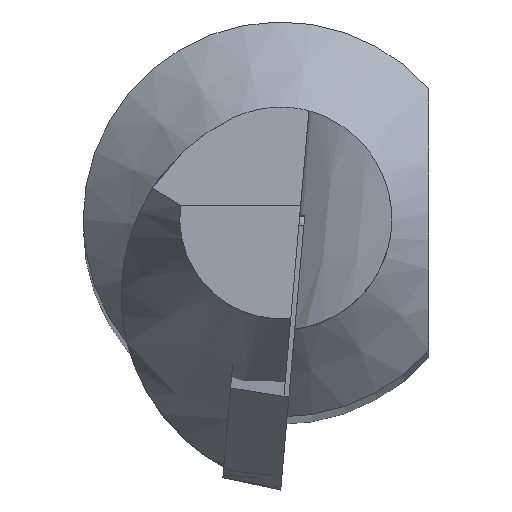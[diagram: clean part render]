
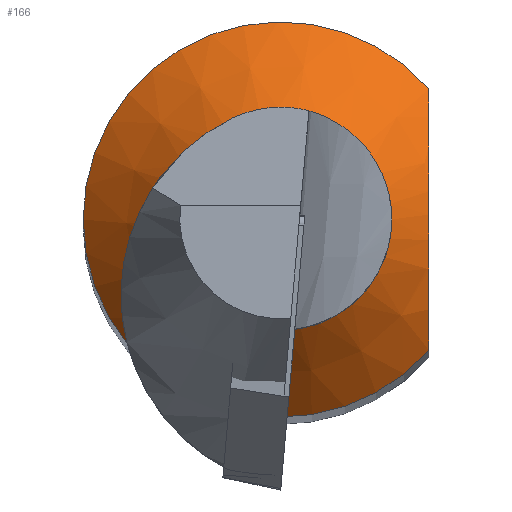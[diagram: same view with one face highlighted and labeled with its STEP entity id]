
A CAD part, top view. The second image highlights one B-rep face of the part: STEP entity #166.
In plain terms, the highlighted conical face has half-angle 45 degrees and reference radius 8 mm.
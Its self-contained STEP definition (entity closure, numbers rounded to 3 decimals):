
#106=B_SPLINE_CURVE_WITH_KNOTS('',3,(#728,#729,#730,#731,#732,#733,#734,
#735),.UNSPECIFIED.,.F.,.F.,(4,2,2,4),(0.,0.5,0.75,1.),.UNSPECIFIED.);
#126=FACE_BOUND('',#227,.T.);
#127=FACE_BOUND('',#228,.T.);
#134=CONICAL_SURFACE('',#490,8.,45.);
#146=CIRCLE('',#487,4.5);
#147=CIRCLE('',#489,8.);
#166=ADVANCED_FACE('',(#126,#127),#134,.T.);
#227=EDGE_LOOP('',(#303));
#228=EDGE_LOOP('',(#304,#305));
#303=ORIENTED_EDGE('',*,*,#405,.F.);
#304=ORIENTED_EDGE('',*,*,#406,.T.);
#305=ORIENTED_EDGE('',*,*,#407,.T.);
#361=VERTEX_POINT('',#723);
#362=VERTEX_POINT('',#726);
#363=VERTEX_POINT('',#727);
#405=EDGE_CURVE('',#361,#361,#146,.T.);
#406=EDGE_CURVE('',#362,#363,#147,.T.);
#407=EDGE_CURVE('',#363,#362,#106,.T.);
#487=AXIS2_PLACEMENT_3D('',#722,#575,#576);
#489=AXIS2_PLACEMENT_3D('',#725,#579,#580);
#490=AXIS2_PLACEMENT_3D('',#736,#581,#582);
#575=DIRECTION('',(0.,0.,1.));
#576=DIRECTION('',(1.,0.,0.));
#579=DIRECTION('',(0.,0.,1.));
#580=DIRECTION('',(1.,0.,0.));
#581=DIRECTION('',(0.,0.,-1.));
#582=DIRECTION('',(-1.,0.,0.));
#722=CARTESIAN_POINT('',(0.,0.,-35.63));
#723=CARTESIAN_POINT('',(4.5,0.,-35.63));
#725=CARTESIAN_POINT('',(0.,0.,-39.13));
#726=CARTESIAN_POINT('',(6.,5.292,-39.13));
#727=CARTESIAN_POINT('',(6.,-5.292,-39.13));
#728=CARTESIAN_POINT('',(6.,-5.292,-39.13));
#729=CARTESIAN_POINT('',(6.,-3.698,-38.076));
#730=CARTESIAN_POINT('',(6.,-1.909,-37.13));
#731=CARTESIAN_POINT('',(6.,0.957,-37.13));
#732=CARTESIAN_POINT('',(6.,1.907,-37.374));
#733=CARTESIAN_POINT('',(6.,3.683,-38.124));
#734=CARTESIAN_POINT('',(6.,4.5,-38.607));
#735=CARTESIAN_POINT('',(6.,5.292,-39.13));
#736=CARTESIAN_POINT('',(0.,0.,-39.13));
